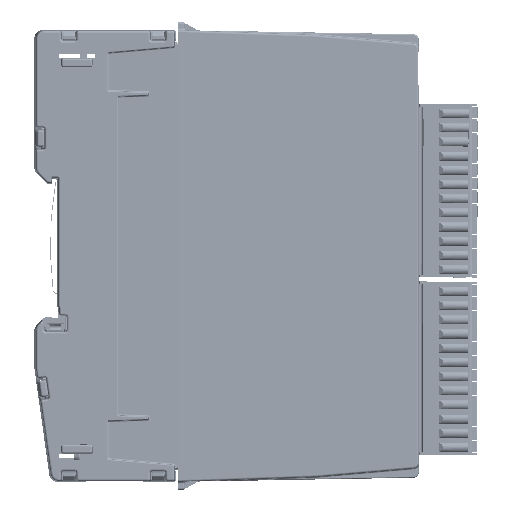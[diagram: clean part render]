
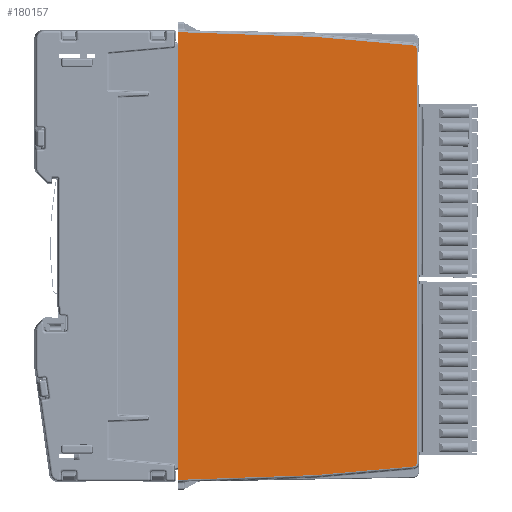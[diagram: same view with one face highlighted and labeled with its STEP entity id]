
A CAD part, left-side view. The second image highlights one B-rep face of the part: STEP entity #180157.
In plain terms, the highlighted planar face has unit normal (-1, -0.018, 0).
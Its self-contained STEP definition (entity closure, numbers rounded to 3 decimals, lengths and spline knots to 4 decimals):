
#2355=ELLIPSE('',#193408,0.0315,0.0315);
#2356=ELLIPSE('',#193409,0.0315,0.0315);
#10018=PLANE('',#193407);
#18101=FACE_OUTER_BOUND('',#28070,.T.);
#28070=EDGE_LOOP('',(#147266,#147267,#147268,#147269,#147270,#147271,#147272,
#147273,#147274,#147275));
#49912=LINE('',#298892,#67688);
#49913=LINE('',#298894,#67689);
#49914=LINE('',#298896,#67690);
#49915=LINE('',#298898,#67691);
#49916=LINE('',#298900,#67692);
#49917=LINE('',#298904,#67693);
#49918=LINE('',#298908,#67694);
#49919=LINE('',#298909,#67695);
#67688=VECTOR('',#229889,39.3701);
#67689=VECTOR('',#229890,39.3701);
#67690=VECTOR('',#229891,39.3701);
#67691=VECTOR('',#229892,39.3701);
#67692=VECTOR('',#229893,39.3701);
#67693=VECTOR('',#229896,39.3701);
#67694=VECTOR('',#229899,39.3701);
#67695=VECTOR('',#229900,39.3701);
#84118=VERTEX_POINT('',#298890);
#84119=VERTEX_POINT('',#298891);
#84120=VERTEX_POINT('',#298893);
#84121=VERTEX_POINT('',#298895);
#84122=VERTEX_POINT('',#298897);
#84123=VERTEX_POINT('',#298899);
#84124=VERTEX_POINT('',#298901);
#84125=VERTEX_POINT('',#298903);
#84126=VERTEX_POINT('',#298905);
#84127=VERTEX_POINT('',#298907);
#106100=EDGE_CURVE('',#84118,#84119,#49912,.T.);
#106101=EDGE_CURVE('',#84120,#84119,#49913,.T.);
#106102=EDGE_CURVE('',#84120,#84121,#49914,.T.);
#106103=EDGE_CURVE('',#84121,#84122,#49915,.T.);
#106104=EDGE_CURVE('',#84122,#84123,#49916,.T.);
#106105=EDGE_CURVE('',#84123,#84124,#2355,.T.);
#106106=EDGE_CURVE('',#84124,#84125,#49917,.T.);
#106107=EDGE_CURVE('',#84125,#84126,#2356,.T.);
#106108=EDGE_CURVE('',#84126,#84127,#49918,.T.);
#106109=EDGE_CURVE('',#84127,#84118,#49919,.T.);
#147266=ORIENTED_EDGE('',*,*,#106100,.T.);
#147267=ORIENTED_EDGE('',*,*,#106101,.F.);
#147268=ORIENTED_EDGE('',*,*,#106102,.T.);
#147269=ORIENTED_EDGE('',*,*,#106103,.T.);
#147270=ORIENTED_EDGE('',*,*,#106104,.T.);
#147271=ORIENTED_EDGE('',*,*,#106105,.T.);
#147272=ORIENTED_EDGE('',*,*,#106106,.T.);
#147273=ORIENTED_EDGE('',*,*,#106107,.T.);
#147274=ORIENTED_EDGE('',*,*,#106108,.T.);
#147275=ORIENTED_EDGE('',*,*,#106109,.T.);
#180157=ADVANCED_FACE('',(#18101),#10018,.T.);
#193407=AXIS2_PLACEMENT_3D('',#298889,#229887,#229888);
#193408=AXIS2_PLACEMENT_3D('',#298902,#229894,#229895);
#193409=AXIS2_PLACEMENT_3D('',#298906,#229897,#229898);
#229887=DIRECTION('center_axis',(-1.,-0.017,
0.));
#229888=DIRECTION('ref_axis',(-0.017,1.,0.));
#229889=DIRECTION('',(0.,0.,-1.));
#229890=DIRECTION('',(0.,0.,1.));
#229891=DIRECTION('',(0.,0.,-1.));
#229892=DIRECTION('',(0.017,-0.999,0.035));
#229893=DIRECTION('',(0.017,-0.996,0.087));
#229894=DIRECTION('center_axis',(-1.,-0.017,
0.));
#229895=DIRECTION('ref_axis',(0.017,-1.,0.));
#229896=DIRECTION('',(0.,0.,1.));
#229897=DIRECTION('center_axis',(-1.,-0.017,
0.));
#229898=DIRECTION('ref_axis',(0.017,-1.,0.));
#229899=DIRECTION('',(-0.017,0.996,0.087));
#229900=DIRECTION('',(-0.017,0.999,0.035));
#298889=CARTESIAN_POINT('Origin',(-0.0296,-0.489,
-2.0669));
#298890=CARTESIAN_POINT('',(-0.0227,-0.8827,0.1083));
#298891=CARTESIAN_POINT('',(-0.0227,-0.8827,-0.0312));
#298892=CARTESIAN_POINT('',(-0.0227,-0.8827,0.128));
#298893=CARTESIAN_POINT('',(-0.0227,-0.8827,-4.1027));
#298894=CARTESIAN_POINT('',(-0.0227,-0.8827,-7.5932));
#298895=CARTESIAN_POINT('',(-0.0227,-0.8827,-4.2421));
#298896=CARTESIAN_POINT('',(-0.0227,-0.8827,0.128));
#298897=CARTESIAN_POINT('',(0.0007,-2.2205,-4.1954));
#298898=CARTESIAN_POINT('',(-0.0282,-0.5654,-4.2532));
#298899=CARTESIAN_POINT('',(0.0174,-3.1772,-4.1117));
#298900=CARTESIAN_POINT('',(-0.0261,-0.6869,-4.3296));
#298901=CARTESIAN_POINT('',(0.0179,-3.2059,-4.0803));
#298902=CARTESIAN_POINT('Origin',(0.0173,-3.1744,
-4.0803));
#298903=CARTESIAN_POINT('',(0.0179,-3.2059,-0.0535));
#298904=CARTESIAN_POINT('',(0.0179,-3.2059,-0.0535));
#298905=CARTESIAN_POINT('',(0.0174,-3.1772,-0.0221));
#298906=CARTESIAN_POINT('Origin',(0.0173,-3.1744,
-0.0535));
#298907=CARTESIAN_POINT('',(0.0007,-2.2205,0.0616));
#298908=CARTESIAN_POINT('',(-0.0261,-0.6869,0.1957));
#298909=CARTESIAN_POINT('',(-0.0282,-0.5654,0.1194));
